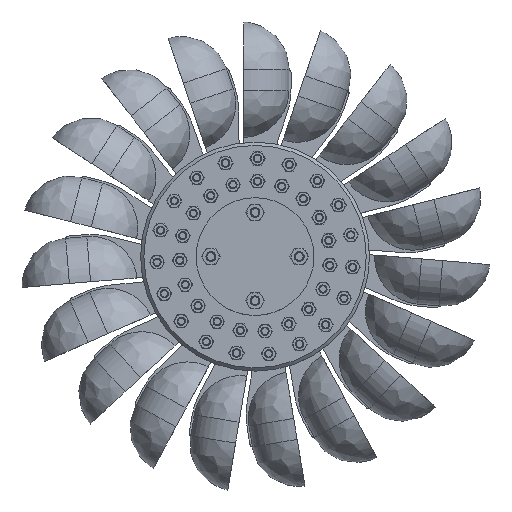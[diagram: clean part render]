
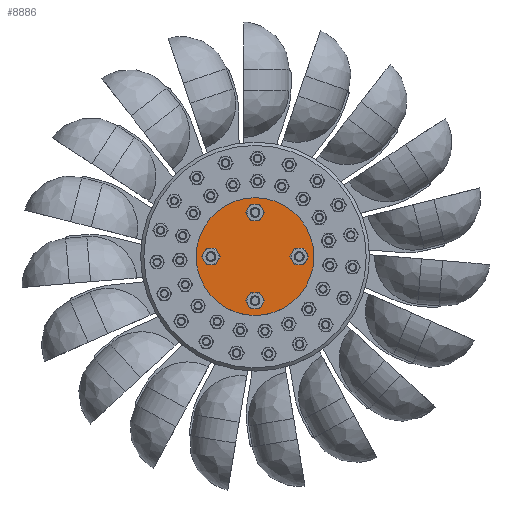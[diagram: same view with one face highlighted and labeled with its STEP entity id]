
A CAD part, top view. The second image highlights one B-rep face of the part: STEP entity #8886.
In plain terms, the highlighted planar face has unit normal (0, 0, 1) as drawn and (0, -1, 0) by its records, which use the part's own axes.
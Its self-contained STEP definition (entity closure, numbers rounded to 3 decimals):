
#940=FACE_BOUND('',#2170,.T.);
#941=FACE_BOUND('',#2171,.T.);
#942=FACE_BOUND('',#2172,.T.);
#943=FACE_BOUND('',#2173,.T.);
#1152=PLANE('',#9903);
#1467=FACE_OUTER_BOUND('',#2169,.T.);
#2169=EDGE_LOOP('',(#6904));
#2170=EDGE_LOOP('',(#6905));
#2171=EDGE_LOOP('',(#6906));
#2172=EDGE_LOOP('',(#6907));
#2173=EDGE_LOOP('',(#6908));
#3374=CIRCLE('',#9887,3.2);
#3376=CIRCLE('',#9890,3.2);
#3378=CIRCLE('',#9893,3.2);
#3380=CIRCLE('',#9896,3.2);
#3384=CIRCLE('',#9902,36.);
#4182=VERTEX_POINT('',#15404);
#4184=VERTEX_POINT('',#15410);
#4186=VERTEX_POINT('',#15416);
#4188=VERTEX_POINT('',#15422);
#4192=VERTEX_POINT('',#15433);
#5112=EDGE_CURVE('',#4182,#4182,#3374,.T.);
#5115=EDGE_CURVE('',#4184,#4184,#3376,.T.);
#5118=EDGE_CURVE('',#4186,#4186,#3378,.T.);
#5121=EDGE_CURVE('',#4188,#4188,#3380,.T.);
#5126=EDGE_CURVE('',#4192,#4192,#3384,.T.);
#6904=ORIENTED_EDGE('',*,*,#5126,.T.);
#6905=ORIENTED_EDGE('',*,*,#5112,.T.);
#6906=ORIENTED_EDGE('',*,*,#5115,.T.);
#6907=ORIENTED_EDGE('',*,*,#5118,.T.);
#6908=ORIENTED_EDGE('',*,*,#5121,.T.);
#8886=ADVANCED_FACE('',(#1467,#940,#941,#942,#943),#1152,.T.);
#9887=AXIS2_PLACEMENT_3D('',#15405,#11869,#11870);
#9890=AXIS2_PLACEMENT_3D('',#15411,#11876,#11877);
#9893=AXIS2_PLACEMENT_3D('',#15417,#11883,#11884);
#9896=AXIS2_PLACEMENT_3D('',#15423,#11890,#11891);
#9902=AXIS2_PLACEMENT_3D('',#15434,#11903,#11904);
#9903=AXIS2_PLACEMENT_3D('',#15436,#11906,#11907);
#11869=DIRECTION('center_axis',(0.,1.,0.));
#11870=DIRECTION('ref_axis',(0.,0.,1.));
#11876=DIRECTION('center_axis',(0.,1.,0.));
#11877=DIRECTION('ref_axis',(-1.,0.,0.));
#11883=DIRECTION('center_axis',(0.,1.,0.));
#11884=DIRECTION('ref_axis',(0.,0.,-1.));
#11890=DIRECTION('center_axis',(0.,1.,0.));
#11891=DIRECTION('ref_axis',(1.,0.,0.));
#11903=DIRECTION('center_axis',(0.,-1.,0.));
#11904=DIRECTION('ref_axis',(1.,0.,0.));
#11906=DIRECTION('center_axis',(0.,-1.,0.));
#11907=DIRECTION('ref_axis',(0.,0.,-1.));
#15404=CARTESIAN_POINT('',(-27.,-8.,-3.2));
#15405=CARTESIAN_POINT('Origin',(-27.,-8.,0.));
#15410=CARTESIAN_POINT('',(3.2,-8.,-27.));
#15411=CARTESIAN_POINT('Origin',(0.,-8.,
-27.));
#15416=CARTESIAN_POINT('',(27.,-8.,3.2));
#15417=CARTESIAN_POINT('Origin',(27.,-8.,0.));
#15422=CARTESIAN_POINT('',(-3.2,-8.,27.));
#15423=CARTESIAN_POINT('Origin',(0.,-8.,27.));
#15433=CARTESIAN_POINT('',(-36.,-8.,0.));
#15434=CARTESIAN_POINT('Origin',(0.,-8.,0.));
#15436=CARTESIAN_POINT('Origin',(0.,-8.,0.));
